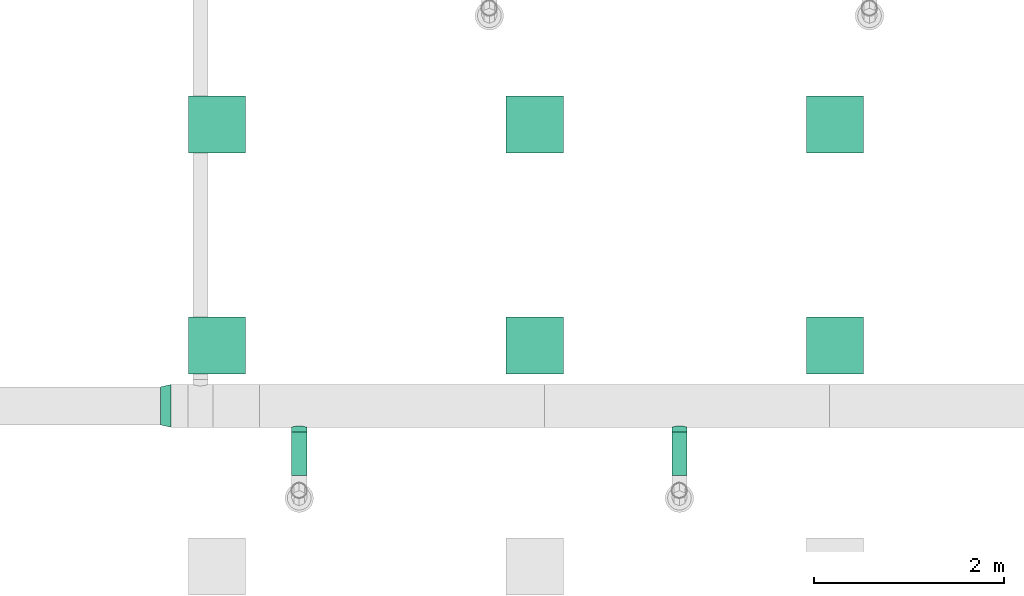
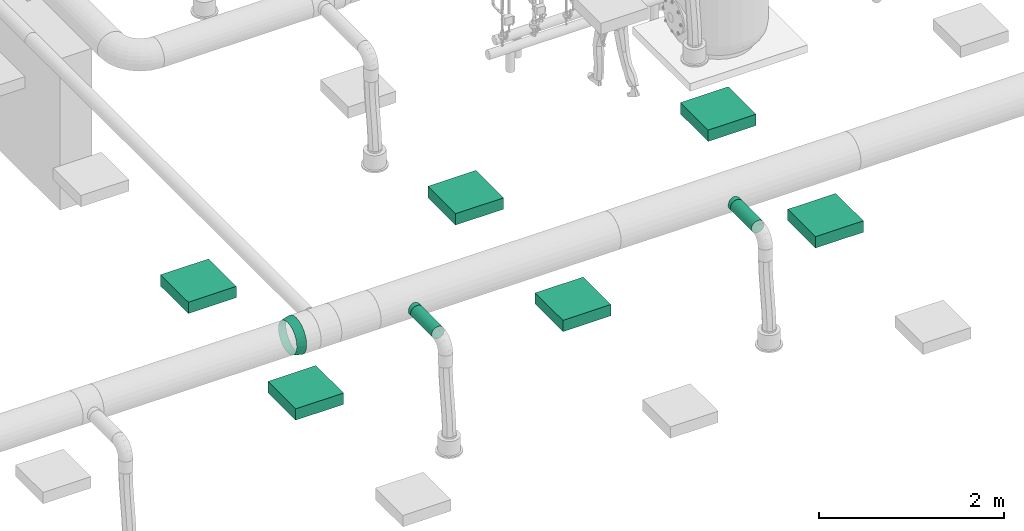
# One storey, part 68 of 374: 6 distribution elements, 4 flow segments, 1 flow fitting.
"""IFC2X3 building model written with IfcOpenShell, lengths in metres."""

from ifc_helpers import new_model, si_unit, direction, frame, frame_2d, origin, place, context, subcontext, project, spatial, rectangle, extrude, open_shell, surface_model, source, transform, mapped, element, save


model = new_model("IFC2X3")

# Units and contexts
model_context = context("Model", 3, precision=1e-05, world=origin(), true_north=direction((-0.4480736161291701, 0.8939966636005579)))
body_context = subcontext(model_context, "Body", "Model", "MODEL_VIEW")
ifc_project = project(units=[si_unit("LENGTHUNIT", "METRE"), si_unit("AREAUNIT", "SQUARE_METRE"), si_unit("VOLUMEUNIT", "CUBIC_METRE"), si_unit("PLANEANGLEUNIT", "RADIAN"), si_unit("THERMODYNAMICTEMPERATUREUNIT", "KELVIN"), si_unit("MASSUNIT", "GRAM", prefix="KILO"), si_unit("TIMEUNIT", "SECOND")], contexts=[model_context])

# Site, building, storey
site_placement = place(None, origin())
site = spatial("IfcSite", under=ifc_project, at=site_placement, Name="Site 1", CompositionType="ELEMENT")
building_placement = place(site_placement, origin())
building = spatial("IfcBuilding", under=site, at=building_placement, Name="Undefined", CompositionType="ELEMENT")
storey_placement = place(building_placement, origin())
storey = spatial("IfcBuildingStorey", under=building, at=storey_placement, Name="Rez de chauss\x8ee", CompositionType="ELEMENT", Elevation=0.0)

# Flow fitting
shared_shape_1 = source(origin(), body_context, "Body", "SurfaceModel", [
    surface_model("IfcFaceBasedSurfaceModel", [(0.0017139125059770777, 0.058711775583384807, 3.552713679e-15), (0.0, 0.0, 0.0), (0.11183022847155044, 1.776356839e-15, 3.552713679e-15), (0.11335370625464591, 0.05218824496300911, 3.552713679e-15), (0.0017139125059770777, -0.0568095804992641, -0.01482376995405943), (0.11335370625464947, -0.050497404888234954, -0.01317668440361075), (0.006738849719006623, -0.1078454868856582, -0.04346109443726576), (0.11782031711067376, -0.09586265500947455, -0.03863208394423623), (0.0147323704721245, -0.1496297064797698, -0.08396038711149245), (0.12492566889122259, -0.13300418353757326, -0.07463145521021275), (0.025149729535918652, -0.1793147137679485, -0.13356168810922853), (0.13418554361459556, -0.1593908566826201, -0.11872150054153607), (0.037281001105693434, -0.19487752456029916, -0.1888847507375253), (0.1449688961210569, -0.1732244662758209, -0.167897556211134), (0.05029945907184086, -0.19525755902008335, -0.2461593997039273), (0.15654085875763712, -0.17356227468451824, -0.2188083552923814), (0.06331791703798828, -0.18042891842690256, -0.301482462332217), (0.1681128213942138, -0.1603812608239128, -0.26798441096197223), (0.07544918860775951, -0.15140215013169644, -0.3510837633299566), (0.17889617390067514, -0.13457968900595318, -0.31207445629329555), (0.08586654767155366, -0.11015538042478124, -0.39158305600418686), (0.1881560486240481, -0.09791589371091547, -0.34807382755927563), (0.09386006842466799, -0.059499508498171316, -0.4202203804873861), (0.1952614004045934, -0.05288845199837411, -0.37352922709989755), (0.09888500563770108, -0.0028866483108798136, -0.4350441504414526), (0.19972801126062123, -0.0025659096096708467, -0.3867059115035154), (0.10059891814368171, 0.055825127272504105, -0.43504415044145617), (0.2012514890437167, 0.04962233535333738, -0.3867059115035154), (0.09888500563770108, 0.11263470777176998, -0.4202203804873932), (0.19972801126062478, 0.1001197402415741, -0.3735292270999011), (0.09386006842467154, 0.16367061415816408, -0.3915830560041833), (0.19526140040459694, 0.14548499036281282, -0.34807382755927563), (0.08586654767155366, 0.2054548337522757, -0.3510837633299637), (0.18815604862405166, 0.18262651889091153, -0.31207445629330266), (0.07544918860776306, 0.23513984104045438, -0.3014824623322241), (0.1788961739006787, 0.20901319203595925, -0.2679844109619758), (0.06331791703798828, 0.25070265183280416, -0.2461593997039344), (0.16811282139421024, 0.22284680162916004, -0.21880835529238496), (0.05029945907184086, 0.25108268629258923, -0.1888847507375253), (0.15654085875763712, 0.2231846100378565, -0.16789755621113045), (0.03728100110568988, 0.23625404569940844, -0.13356168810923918), (0.14496889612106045, 0.21000359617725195, -0.11872150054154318), (0.025149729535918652, 0.20722727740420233, -0.08396038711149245), (0.13418554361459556, 0.18420202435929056, -0.0746314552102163), (0.0147323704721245, 0.16598050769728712, -0.04346109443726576), (0.12492566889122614, 0.14753822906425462, -0.03863208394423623), (0.006738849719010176, 0.11532463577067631, -0.014823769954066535), (0.11782031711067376, 0.10251078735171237, -0.013176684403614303)], [open_shell([[[0, 1, 2, 3]], [[1, 4, 5, 2]], [[4, 6, 7, 5]], [[6, 8, 9, 7]], [[8, 10, 11, 9]], [[10, 12, 13, 11]], [[12, 14, 15, 13]], [[14, 16, 17, 15]], [[16, 18, 19, 17]], [[18, 20, 21, 19]], [[20, 22, 23, 21]], [[22, 24, 25, 23]], [[24, 26, 27, 25]], [[26, 28, 29, 27]], [[28, 30, 31, 29]], [[30, 32, 33, 31]], [[32, 34, 35, 33]], [[34, 36, 37, 35]], [[36, 38, 39, 37]], [[38, 40, 41, 39]], [[40, 42, 43, 41]], [[42, 44, 45, 43]], [[44, 46, 47, 45]], [[46, 0, 3, 47]]])]),
])
flow_fitting_placement = place(storey_placement, origin())
element("IfcFlowFitting", 1, at=flow_fitting_placement, inside=storey, Name="Réduction conique", ObjectType="Réduction conique", context=body_context, shape_type="MappedRepresentation", body=[
    mapped(shared_shape_1, transform((44.940200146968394, 3.068631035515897, 3.741765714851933), x_axis=(-0.9746917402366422, -0.21593576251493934, 0.05785981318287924), y_axis=(0.028453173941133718, 0.1368853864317, 0.9901781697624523), z_axis=(-0.2217350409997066, 0.966764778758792, -0.12727699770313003))),
])

# Flow segments
shared_shape_2 = source(origin(), body_context, "Body", "SurfaceModel", [
    surface_model("IfcFaceBasedSurfaceModel", [(0.0009547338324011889, 0.020884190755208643, 0.0), (0.0, 0.0, 0.0), (0.05095473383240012, 0.0, -3.552713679e-15), (0.05095473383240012, 0.020884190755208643, 0.0), (-0.0026293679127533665, -0.02017257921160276, -0.005405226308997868), (0.05095473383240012, -0.02017257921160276, -0.005405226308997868), (-0.0062724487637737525, -0.038258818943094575, -0.01584732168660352), (0.05095473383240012, -0.038258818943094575, -0.01584732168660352), (-0.009977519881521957, -0.05302617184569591, -0.030614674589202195), (0.05095473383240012, -0.05302617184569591, -0.030614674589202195), (-0.012731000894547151, -0.06346826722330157, -0.04870091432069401), (0.05095473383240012, -0.06346826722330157, -0.04870091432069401), (-0.013747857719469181, -0.06887349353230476, -0.0688734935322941), (0.05095473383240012, -0.06887349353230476, -0.0688734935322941), (-0.012731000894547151, -0.06887349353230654, -0.08975768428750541), (0.05095473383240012, -0.06887349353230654, -0.08975768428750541), (-0.009977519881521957, -0.0634682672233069, -0.10993026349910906), (0.05095473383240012, -0.0634682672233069, -0.10993026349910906), (-0.0062724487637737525, -0.05302617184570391, -0.12801650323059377), (0.05095473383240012, -0.05302617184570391, -0.12801650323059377), (-0.0026293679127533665, -0.038258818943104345, -0.14278385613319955), (0.05095473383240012, -0.038258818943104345, -0.14278385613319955), (0.0, -0.020172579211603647, -0.15322595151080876), (0.05095473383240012, -0.020172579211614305, -0.1532259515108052), (0.0009547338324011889, -1.1546319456e-14, -0.15863117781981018), (0.05095473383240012, -1.1546319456e-14, -0.15863117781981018), (0.0, 0.020884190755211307, -0.15863117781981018), (0.05095473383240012, 0.020884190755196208, -0.15863117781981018), (-0.0026293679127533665, 0.041056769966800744, -0.15322595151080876), (0.05095473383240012, 0.041056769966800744, -0.15322595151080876), (-0.0062724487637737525, 0.05914300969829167, -0.1427838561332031), (0.05095473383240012, 0.05914300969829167, -0.1427838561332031), (-0.009977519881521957, 0.07391036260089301, -0.12801650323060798), (0.05095473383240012, 0.07391036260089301, -0.12801650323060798), (-0.012731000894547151, 0.08435245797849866, -0.10993026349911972), (0.05095473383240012, 0.08435245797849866, -0.10993026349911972), (-0.013747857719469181, 0.08975768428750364, -0.08975768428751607), (0.05095473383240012, 0.08975768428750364, -0.08975768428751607), (-0.012731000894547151, 0.08975768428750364, -0.06887349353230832), (0.05095473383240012, 0.08975768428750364, -0.06887349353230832), (-0.009977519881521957, 0.08435245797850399, -0.048700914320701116), (0.05095473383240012, 0.08435245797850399, -0.048700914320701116), (-0.0062724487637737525, 0.073910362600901, -0.030614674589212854), (0.05095473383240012, 0.073910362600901, -0.030614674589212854), (-0.0026293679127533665, 0.05914300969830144, -0.015847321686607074), (0.05095473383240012, 0.05914300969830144, -0.015847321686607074), (0.0, 0.04105676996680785, -0.005405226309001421), (0.05095473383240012, 0.0410567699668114, -0.005405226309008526)], [open_shell([[[0, 1, 2, 3]], [[1, 4, 5, 2]], [[4, 6, 7, 5]], [[6, 8, 9, 7]], [[8, 10, 11, 9]], [[10, 12, 13, 11]], [[12, 14, 15, 13]], [[14, 16, 17, 15]], [[16, 18, 19, 17]], [[18, 20, 21, 19]], [[20, 22, 23, 21]], [[22, 24, 25, 23]], [[24, 26, 27, 25]], [[26, 28, 29, 27]], [[28, 30, 31, 29]], [[30, 32, 33, 31]], [[32, 34, 35, 33]], [[34, 36, 37, 35]], [[36, 38, 39, 37]], [[38, 40, 41, 39]], [[40, 42, 43, 41]], [[42, 44, 45, 43]], [[44, 46, 47, 45]], [[46, 0, 3, 47]]])]),
])
flow_segment_1_placement = place(storey_placement, origin())
element("IfcFlowSegment", 2, at=flow_segment_1_placement, inside=storey, Name="Piquage équerre circulaire", ObjectType="Piquage équerre circulaire", context=body_context, shape_type="MappedRepresentation", body=[
    mapped(shared_shape_2, transform((50.21272722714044, 2.627252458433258, 3.779294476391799), x_axis=(0.0, -1.0, 0.0), y_axis=(-0.13052619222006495, 0.0, 0.9914448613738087), z_axis=(-0.9914448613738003, 0.0, -0.13052619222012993))),
])
flow_segment_2_placement = place(storey_placement, origin())
element("IfcFlowSegment", 3, at=flow_segment_2_placement, inside=storey, Name="Piquage équerre circulaire", ObjectType="Piquage équerre circulaire", context=body_context, shape_type="MappedRepresentation", body=[
    mapped(shared_shape_2, transform((46.212727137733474, 2.627252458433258, 3.779294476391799), x_axis=(0.0, -1.0, 0.0), y_axis=(-0.13052619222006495, 0.0, 0.9914448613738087), z_axis=(-0.9914448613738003, 0.0, -0.13052619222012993))),
])
shared_shape_3 = source(origin(), body_context, "Body", "SurfaceModel", [
    surface_model("IfcFaceBasedSurfaceModel", [(0.0, 0.020884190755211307, 0.0), (0.0, 0.0, 0.0), (0.4562979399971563, -7.105427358e-15, 0.0), (0.4562979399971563, 0.0208841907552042, 0.0), (0.0, -0.020172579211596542, -0.005405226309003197), (0.4562979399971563, -0.020172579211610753, -0.005405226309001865), (0.0, -0.03825881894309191, -0.015847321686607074), (0.4562979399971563, -0.038258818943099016, -0.015847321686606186), (0.0, -0.05302617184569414, -0.0306146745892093), (0.4562979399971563, -0.05302617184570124, -0.03061467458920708), (0.0, -0.06346826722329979, -0.04870091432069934), (0.4562979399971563, -0.0634682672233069, -0.04870091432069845), (0.0, -0.06887349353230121, -0.06887349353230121), (0.4562979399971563, -0.06887349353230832, -0.06887349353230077), (0.0, -0.06887349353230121, -0.08975768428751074), (0.4562979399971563, -0.06887349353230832, -0.08975768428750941), (0.0, -0.06346826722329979, -0.10993026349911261), (0.4562979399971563, -0.0634682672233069, -0.10993026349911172), (0.0, -0.05302617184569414, -0.12801650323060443), (0.4562979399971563, -0.05302617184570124, -0.12801650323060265), (0.0, -0.038258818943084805, -0.14278385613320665), (0.4562979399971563, -0.038258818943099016, -0.1427838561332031), (0.0, -0.020172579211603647, -0.15322595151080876), (0.4562979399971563, -0.020172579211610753, -0.15322595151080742), (0.0, 7.105427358e-15, -0.15863117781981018), (0.4562979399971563, -7.105427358e-15, -0.1586311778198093), (0.0, 0.020884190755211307, -0.15863117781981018), (0.4562979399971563, 0.020884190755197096, -0.15863117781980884), (0.0, 0.04105676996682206, -0.15322595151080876), (0.4562979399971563, 0.04105676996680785, -0.15322595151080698), (0.0, 0.05914300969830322, -0.1427838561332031), (0.4562979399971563, 0.05914300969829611, -0.14278385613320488), (0.0, 0.07391036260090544, -0.12801650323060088), (0.4562979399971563, 0.07391036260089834, -0.12801650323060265), (0.0, 0.0843524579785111, -0.10993026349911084), (0.4562979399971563, 0.08435245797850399, -0.10993026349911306), (0.0, 0.08975768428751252, -0.08975768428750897), (0.4562979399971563, 0.08975768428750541, -0.0897576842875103), (0.0, 0.08975768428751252, -0.06887349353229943), (0.4562979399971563, 0.08975768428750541, -0.0688734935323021), (0.0, 0.0843524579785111, -0.048700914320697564), (0.4562979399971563, 0.08435245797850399, -0.04870091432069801), (0.0, 0.07391036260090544, -0.030614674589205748), (0.4562979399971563, 0.07391036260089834, -0.030614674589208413), (0.0, 0.05914300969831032, -0.015847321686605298), (0.4562979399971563, 0.05914300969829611, -0.015847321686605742), (0.0, 0.04105676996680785, -0.005405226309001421), (0.4562979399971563, 0.041056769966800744, -0.005405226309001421)], [open_shell([[[0, 1, 2, 3]], [[1, 4, 5, 2]], [[4, 6, 7, 5]], [[6, 8, 9, 7]], [[8, 10, 11, 9]], [[10, 12, 13, 11]], [[12, 14, 15, 13]], [[14, 16, 17, 15]], [[16, 18, 19, 17]], [[18, 20, 21, 19]], [[20, 22, 23, 21]], [[22, 24, 25, 23]], [[24, 26, 27, 25]], [[26, 28, 29, 27]], [[28, 30, 31, 29]], [[30, 32, 33, 31]], [[32, 34, 35, 33]], [[34, 36, 37, 35]], [[36, 38, 39, 37]], [[38, 40, 41, 39]], [[40, 42, 43, 41]], [[42, 44, 45, 43]], [[44, 46, 47, 45]], [[46, 0, 3, 47]]])]),
])
flow_segment_3_placement = place(storey_placement, origin())
element("IfcFlowSegment", 4, at=flow_segment_3_placement, inside=storey, Name="Tube", ObjectType="Tube", context=body_context, shape_type="MappedRepresentation", body=[
    mapped(shared_shape_3, transform((50.26929576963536, 2.576297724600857, 3.877274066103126), x_axis=(0.0, -1.0, 0.0), y_axis=(0.9914448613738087, 0.0, 0.13052619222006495), z_axis=(-0.13052619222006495, 0.0, 0.9914448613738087))),
])
flow_segment_4_placement = place(storey_placement, origin())
element("IfcFlowSegment", 5, at=flow_segment_4_placement, inside=storey, Name="Tube", ObjectType="Tube", context=body_context, shape_type="MappedRepresentation", body=[
    mapped(shared_shape_3, transform((46.269295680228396, 2.576297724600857, 3.877274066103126), x_axis=(0.0, -1.0, 0.0), y_axis=(0.9914448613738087, 0.0, 0.13052619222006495), z_axis=(-0.13052619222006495, 0.0, 0.9914448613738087))),
])

# Distribution elements
distribution_element_1_placement = place(storey_placement, origin())
element("IfcDistributionElement", 6, at=distribution_element_1_placement, inside=storey, Name="Decken-Rechteckleuchte mit Rahmen AP", ObjectType="Decken-Rechteckleuchte mit Rahmen AP", context=body_context, shape_type="SweptSolid", body=[
    extrude(rectangle(XDim=0.6000000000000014, YDim=0.6000000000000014, at=frame_2d((3.552713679e-15, 0.0), x_axis=(0.0, 1.0))), frame((48.76792114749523, 5.8125, 2.5500000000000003), z_axis=(0.0, 0.0, -1.0), x_axis=(1.0, 0.0, 0.0)), (0.0, 0.0, 1.0), 0.15),
])
distribution_element_2_placement = place(storey_placement, origin())
element("IfcDistributionElement", 7, at=distribution_element_2_placement, inside=storey, Name="Decken-Rechteckleuchte mit Rahmen AP", ObjectType="Decken-Rechteckleuchte mit Rahmen AP", context=body_context, shape_type="SweptSolid", body=[
    extrude(rectangle(XDim=0.6000000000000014, YDim=0.6000000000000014, at=frame_2d((3.552713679e-15, 0.0), x_axis=(0.0, 1.0))), frame((45.42533733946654, 5.8125, 2.5500000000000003), z_axis=(0.0, 0.0, -1.0), x_axis=(1.0, 0.0, 0.0)), (0.0, 0.0, 1.0), 0.15),
])
distribution_element_3_placement = place(storey_placement, origin())
element("IfcDistributionElement", 8, at=distribution_element_3_placement, inside=storey, Name="Decken-Rechteckleuchte mit Rahmen AP", ObjectType="Decken-Rechteckleuchte mit Rahmen AP", context=body_context, shape_type="SweptSolid", body=[
    extrude(rectangle(XDim=0.6000000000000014, YDim=0.6000000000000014, at=frame_2d((3.552713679e-15, 0.0), x_axis=(0.0, 1.0))), frame((51.9257634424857, 5.8125, 2.5500000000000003), z_axis=(0.0, 0.0, -1.0), x_axis=(1.0, 0.0, 0.0)), (0.0, 0.0, 1.0), 0.15),
])
distribution_element_4_placement = place(storey_placement, origin())
element("IfcDistributionElement", 9, at=distribution_element_4_placement, inside=storey, Name="Decken-Rechteckleuchte mit Rahmen AP", ObjectType="Decken-Rechteckleuchte mit Rahmen AP", context=body_context, shape_type="SweptSolid", body=[
    extrude(rectangle(XDim=0.6000000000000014, YDim=0.6000000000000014, at=frame_2d((3.552713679e-15, 0.0), x_axis=(0.0, 1.0))), frame((48.76792114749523, 3.4875, 2.5500000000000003), z_axis=(0.0, 0.0, -1.0), x_axis=(1.0, 0.0, 0.0)), (0.0, 0.0, 1.0), 0.15),
])
distribution_element_5_placement = place(storey_placement, origin())
element("IfcDistributionElement", 10, at=distribution_element_5_placement, inside=storey, Name="Decken-Rechteckleuchte mit Rahmen AP", ObjectType="Decken-Rechteckleuchte mit Rahmen AP", context=body_context, shape_type="SweptSolid", body=[
    extrude(rectangle(XDim=0.6000000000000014, YDim=0.6000000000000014, at=frame_2d((3.552713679e-15, 0.0), x_axis=(0.0, 1.0))), frame((51.9257634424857, 3.4875, 2.5500000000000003), z_axis=(0.0, 0.0, -1.0), x_axis=(1.0, 0.0, 0.0)), (0.0, 0.0, 1.0), 0.15),
])
distribution_element_6_placement = place(storey_placement, origin())
element("IfcDistributionElement", 11, at=distribution_element_6_placement, inside=storey, Name="Decken-Rechteckleuchte mit Rahmen AP", ObjectType="Decken-Rechteckleuchte mit Rahmen AP", context=body_context, shape_type="SweptSolid", body=[
    extrude(rectangle(XDim=0.6000000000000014, YDim=0.6000000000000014, at=frame_2d((3.552713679e-15, 0.0), x_axis=(0.0, 1.0))), frame((45.42533742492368, 3.4875, 2.5500000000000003), z_axis=(0.0, 0.0, -1.0), x_axis=(1.0, 0.0, 0.0)), (0.0, 0.0, 1.0), 0.15),
])

save(model, "model.ifc")
